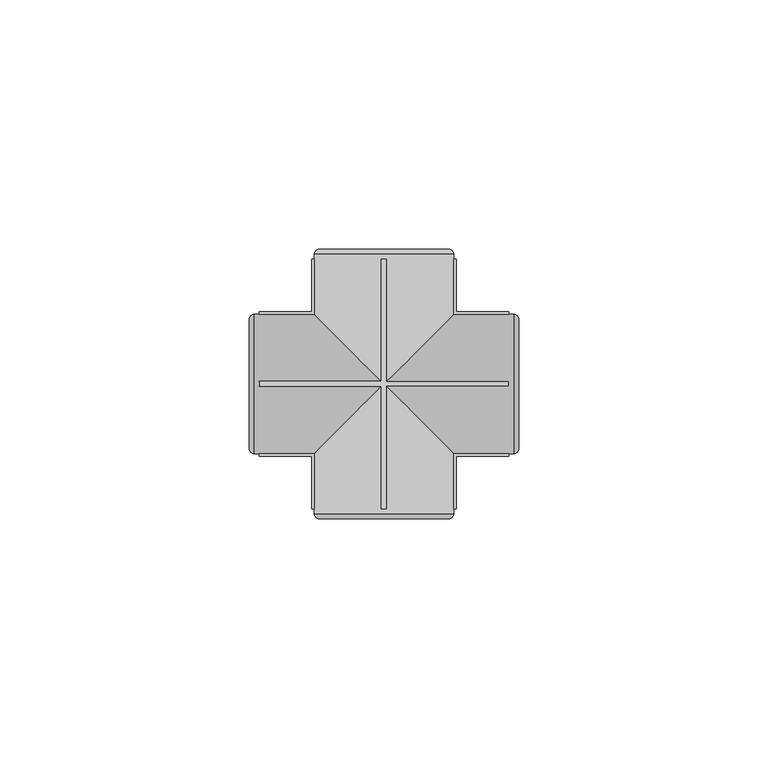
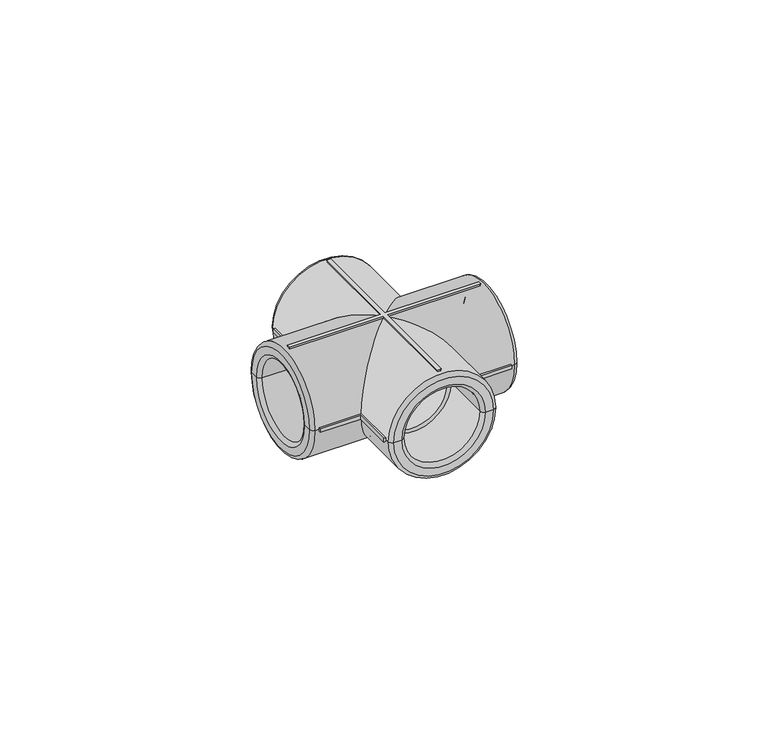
"""IFC4 building model written with IfcOpenShell, lengths in millimetres: pipe fitting geometry, EGB_VASEN_ PPR_Cruz WXR400 : EGB_VASEN_ PPR_Cruz WXR400."""

from ifc_helpers import new_model, si_unit, point, frame, origin, place, context, project, spatial, polyline, circle_curve, ellipse_curve, trimmed, source, transform, mapped, element, save
from ifc_brep_helpers import plane_surface, cylinder_surface, revolved_surface, advanced_brep


def pipe_fitting_b54301e0(model_context):
    return source(origin(), model_context, "Body", "AdvancedBrep", [
        advanced_brep(
        [(-14.5, -25.0, 0.5), (-14.5, -25.0, -0.5), (-13.9910686, -25.0, -0.5), (-14.0, -25.0, 0.0), (-13.9910686, -25.0, 0.5), (14.5, -25.0, -0.5), (14.5, -25.0, 0.5), (13.9910686, -25.0, 0.5), (14.0, -25.0, 0.0), (13.9910686, -25.0, -0.5), (14.5, 25.0, 0.5), (14.5, 25.0, -0.5), (13.9910686, 25.0, -0.5), (14.0, 25.0, 0.0), (13.9910686, 25.0, 0.5), (-14.5, 25.0, -0.5), (-14.5, 25.0, 0.5), (-13.9910686, 25.0, 0.5), (-14.0, 25.0, 0.0), (-13.9910686, 25.0, -0.5), (14.5, -14.5, -0.5), (14.5, -14.5, 0.5), (14.5, 14.5, 0.5), (14.5, 14.5, -0.5), (13.9910686, -13.9910686, -0.5), (25.0, -13.9910686, -0.5), (25.0, -14.5, -0.5), (25.0, 14.5, -0.5), (25.0, 13.9910686, -0.5), (13.9910686, 13.9910686, -0.5), (-14.5, -14.5, -0.5), (-25.0, -14.5, -0.5), (-25.0, -13.9910686, -0.5), (-13.9910686, -13.9910686, -0.5), (-14.5, 14.5, -0.5), (-13.9910686, 13.9910686, -0.5), (-25.0, 13.9910686, -0.5), (-25.0, 14.5, -0.5), (-14.5, -14.5, 0.5), (-14.5, 14.5, 0.5), (25.0, -14.5, 0.5), (25.0, -13.9910686, 0.5), (13.9910686, -13.9910686, 0.5), (13.9910686, 13.9910686, 0.5), (25.0, 13.9910686, 0.5), (25.0, 14.5, 0.5), (-13.9910686, -13.9910686, 0.5), (-25.0, -13.9910686, 0.5), (-25.0, -14.5, 0.5), (-25.0, 14.5, 0.5), (-25.0, 13.9910686, 0.5), (-13.9910686, 13.9910686, 0.5), (25.0, -14.0, 0.0), (25.0, 14.0, 0.0), (-25.0, 14.0, 0.0), (-25.0, -14.0, 0.0), (-12.9999986, 27.0, 0.0), (-11.0, 27.0, 0.0), (11.0, 27.0, 0.0), (13.0, 27.0, 0.0), (14.0, -26.0000005, 0.0), (-14.0, -26.0, 0.0), (-0.5, -0.5, -13.9910686), (-0.5, -25.0, -13.9910686), (0.5, -25.0, -13.9910686), (0.5, -0.5, -13.9910686), (-14.0, 26.0, 0.0), (14.0, 26.0, 0.0), (0.5, 0.5, -13.9910686), (0.5, 25.0, -13.9910686), (-0.5, 25.0, -13.9910686), (-0.5, 0.5, -13.9910686), (0.5, -0.5, 13.9910686), (0.5, -25.0, 13.9910686), (-0.5, -25.0, 13.9910686), (-0.5, -0.5, 13.9910686), (-0.5, 0.5, 13.9910686), (-0.5, 25.0, 13.9910686), (0.5, 25.0, 13.9910686), (0.5, 0.5, 13.9910686), (13.0, -27.0, 0.0), (11.0, -27.0, 0.0), (-11.0, -27.0, 0.0), (-13.0, -27.0, 0.0), (26.0, 14.0, 0.0), (26.0, -14.0, 0.0), (25.0, -0.5, -13.9910686), (25.0, 0.5, -13.9910686), (-25.0, 0.5, -13.9910686), (-25.0, -0.5, -13.9910686), (-26.0000015, -14.0, 0.0), (-26.0, 14.0, 0.0), (25.0, 0.5, 13.9910686), (25.0, -0.5, 13.9910686), (-25.0, -0.5, 13.9910686), (-25.0, 0.5, 13.9910686), (-27.0, -13.0, 0.0), (-27.0, -11.0, 0.0), (-27.0, 11.0, 0.0), (-27.0, 13.0, 0.0), (27.0, 12.9999999, 0.0), (27.0, 11.0, 0.0), (27.0, -11.0, 0.0), (27.0, -13.0, 0.0), (25.0, 0.5, 14.5), (25.0, -0.5, 14.5), (25.0, -0.5, -14.5), (25.0, 0.5, -14.5), (-25.0, 0.5, -14.5), (-25.0, -0.5, -14.5), (-25.0, -0.5, 14.5), (-25.0, 0.5, 14.5), (0.5, 0.5, 14.5), (0.5, 25.0, 14.5), (-0.5, 25.0, 14.5), (-0.5, 0.5, 14.5), (-0.5, -0.5, 14.5), (-0.5, -25.0, 14.5), (0.5, -25.0, 14.5), (0.5, -0.5, 14.5), (0.5, -0.5, -14.5), (-0.5, -0.5, -14.5), (0.5, -25.0, -14.5), (-0.5, -25.0, -14.5), (-0.5, 0.5, -14.5), (-0.5, 25.0, -14.5), (0.5, 25.0, -14.5), (0.5, 0.5, -14.5), (10.0, -13.0, 0.0), (9.0, -13.0, 0.0), (-9.0, -13.0, 0.0), (-10.0, -13.0, 0.0), (-10.0, -26.0, 0.0), (10.0, -26.0, 0.0), (10.0, 26.0, 0.0), (-10.0, 26.0, 0.0), (-10.0, 13.0, 0.0), (10.0, 13.0, 0.0), (-9.0, 13.0, 0.0), (9.0, 13.0, 0.0), (9.0, -9.0, 0.0), (0.0, 0.0, -9.0), (-9.0, -9.0, 0.0), (-9.0, 9.0, 0.0), (9.0, 9.0, 0.0), (0.0, 0.0, 9.0), (26.0, -10.0, 0.0), (26.0, 10.0, 0.0), (13.0, 10.0, 0.0), (13.0, -10.0, 0.0), (13.0, 9.0, 0.0), (13.0, -9.0, 0.0), (-13.0, 9.0, 0.0), (-13.0, -9.0, 0.0), (-13.0, 10.0, 0.0), (-13.0, -10.0, 0.0), (-26.0, 10.0, 0.0), (-26.0, -10.0, 0.0)],
        [
            (0, 1),
            (1, 2),
            (2, 3, circle_curve(frame((0.0, -25.0, 0.0), z_axis=(0.0, 1.0, 0.0), x_axis=(-1.0, 0.0, 0.0)), 14.0)),
            (3, 4, circle_curve(frame((0.0, -25.0, 0.0), z_axis=(0.0, 1.0, 0.0), x_axis=(-1.0, 0.0, 0.0)), 14.0)),
            (4, 0),
            (5, 6),
            (6, 7),
            (7, 8, circle_curve(frame((0.0, -25.0, 0.0), z_axis=(0.0, 1.0, 0.0), x_axis=(-1.0, 0.0, 0.0)), 14.0)),
            (8, 9, circle_curve(frame((0.0, -25.0, 0.0), z_axis=(0.0, 1.0, 0.0), x_axis=(-1.0, 0.0, 0.0)), 14.0)),
            (9, 5),
            (10, 11),
            (11, 12),
            (12, 13, circle_curve(frame((0.0, 25.0, 0.0), z_axis=(0.0, -1.0, 0.0), x_axis=(-1.0, 0.0, 0.0)), 14.0)),
            (13, 14, circle_curve(frame((0.0, 25.0, 0.0), z_axis=(0.0, -1.0, 0.0), x_axis=(-1.0, 0.0, 0.0)), 14.0)),
            (14, 10),
            (15, 16),
            (16, 17),
            (17, 18, circle_curve(frame((0.0, 25.0, 0.0), z_axis=(0.0, -1.0, 0.0), x_axis=(-1.0, 0.0, 0.0)), 14.0)),
            (18, 19, circle_curve(frame((0.0, 25.0, 0.0), z_axis=(0.0, -1.0, 0.0), x_axis=(-1.0, 0.0, 0.0)), 14.0)),
            (19, 15),
            (5, 20),
            (20, 21),
            (21, 6),
            (10, 22),
            (22, 23),
            (23, 11),
            (9, 24),
            (24, 25),
            (25, 26),
            (26, 20),
            (23, 27),
            (27, 28),
            (28, 29),
            (29, 12),
            (1, 30),
            (30, 31),
            (31, 32),
            (32, 33),
            (33, 2),
            (34, 15),
            (19, 35),
            (35, 36),
            (36, 37),
            (37, 34),
            (0, 38),
            (38, 30),
            (34, 39),
            (39, 16),
            (21, 40),
            (40, 41),
            (41, 42),
            (42, 7),
            (14, 43),
            (43, 44),
            (44, 45),
            (45, 22),
            (4, 46),
            (46, 47),
            (47, 48),
            (48, 38),
            (39, 49),
            (49, 50),
            (50, 51),
            (51, 17),
            (40, 26),
            (25, 52, circle_curve(frame((25.0, 0.0, 0.0), z_axis=(-1.0, 0.0, 0.0), x_axis=(0.0, 1.0, 0.0)), 14.0)),
            (52, 41, circle_curve(frame((25.0, 0.0, 0.0), z_axis=(-1.0, 0.0, 0.0), x_axis=(0.0, 1.0, 0.0)), 14.0)),
            (27, 45),
            (44, 53, circle_curve(frame((25.0, 0.0, 0.0), z_axis=(-1.0, 0.0, 0.0), x_axis=(0.0, 1.0, 0.0)), 14.0)),
            (53, 28, circle_curve(frame((25.0, 0.0, 0.0), z_axis=(-1.0, 0.0, 0.0), x_axis=(0.0, 1.0, 0.0)), 14.0)),
            (49, 37),
            (36, 54, circle_curve(frame((-25.0, 0.0, 0.0), z_axis=(1.0, 0.0, 0.0), x_axis=(0.0, 1.0, 0.0)), 14.0)),
            (54, 50, circle_curve(frame((-25.0, 0.0, 0.0), z_axis=(1.0, 0.0, 0.0), x_axis=(0.0, 1.0, 0.0)), 14.0)),
            (31, 48),
            (47, 55, circle_curve(frame((-25.0, 0.0, 0.0), z_axis=(1.0, 0.0, 0.0), x_axis=(0.0, 1.0, 0.0)), 14.0)),
            (55, 32, circle_curve(frame((-25.0, 0.0, 0.0), z_axis=(1.0, 0.0, 0.0), x_axis=(0.0, 1.0, 0.0)), 14.0)),
            (56, 57),
            (57, 58, circle_curve(frame((0.0, 27.0, 0.0), z_axis=(0.0, -1.0, 0.0), x_axis=(-1.0, 0.0, 0.0)), 11.0)),
            (58, 59),
            (59, 56, circle_curve(frame((0.0, 27.0, 0.0), z_axis=(0.0, 1.0, 0.0), x_axis=(-1.0, 0.0, 0.0)), 13.0)),
            (56, 59, circle_curve(frame((0.0, 27.0, 0.0), z_axis=(0.0, 1.0, 0.0), x_axis=(-1.0, 0.0, 0.0)), 13.0)),
            (58, 57, circle_curve(frame((0.0, 27.0, 0.0), z_axis=(0.0, -1.0, 0.0), x_axis=(-1.0, 0.0, 0.0)), 11.0)),
            (8, 60),
            (60, 61, circle_curve(frame((0.0, -26.0, 0.0), z_axis=(0.0, 1.0, 0.0), x_axis=(-1.0, 0.0, 0.0)), 14.0)),
            (61, 3),
            (33, 62, ellipse_curve(frame((0.0, 0.0, 0.0), z_axis=(0.7071067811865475, -0.7071067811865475, 0.0), x_axis=(-0.7071067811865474, -0.7071067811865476, 0.0)), 19.7989899, 14.0)),
            (62, 63),
            (63, 64, circle_curve(frame((0.0, -25.0, 0.0), z_axis=(0.0, -1.0, 0.0), x_axis=(-1.0, 0.0, 0.0)), 14.0)),
            (64, 65),
            (65, 24, ellipse_curve(frame((0.0, 0.0, 0.0), z_axis=(-0.7071067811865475, -0.7071067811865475, 0.0), x_axis=(0.7071067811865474, -0.7071067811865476, 0.0)), 19.7989899, 14.0)),
            (18, 66),
            (66, 67, circle_curve(frame((0.0, 26.0, 0.0), z_axis=(0.0, -1.0, 0.0), x_axis=(-1.0, 0.0, 0.0)), 14.0)),
            (67, 13),
            (29, 68, ellipse_curve(frame((0.0, 0.0, 0.0), z_axis=(-0.7071067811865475, 0.7071067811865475, 0.0), x_axis=(-0.7071067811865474, -0.7071067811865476, 0.0)), 19.7989899, 14.0)),
            (68, 69),
            (69, 70, circle_curve(frame((0.0, 25.0, 0.0), z_axis=(0.0, 1.0, 0.0), x_axis=(-1.0, 0.0, 0.0)), 14.0)),
            (70, 71),
            (71, 35, ellipse_curve(frame((0.0, 0.0, 0.0), z_axis=(0.7071067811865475, 0.7071067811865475, 0.0), x_axis=(0.7071067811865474, -0.7071067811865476, 0.0)), 19.7989899, 14.0)),
            (61, 60, circle_curve(frame((0.0, -26.0, 0.0), z_axis=(0.0, 1.0, 0.0), x_axis=(-1.0, 0.0, 0.0)), 14.0)),
            (42, 72, ellipse_curve(frame((0.0, 0.0, 0.0), z_axis=(-0.7071067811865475, -0.7071067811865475, 0.0), x_axis=(0.7071067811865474, -0.7071067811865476, 0.0)), 19.7989899, 14.0)),
            (72, 73),
            (73, 74, circle_curve(frame((0.0, -25.0, 0.0), z_axis=(0.0, -1.0, 0.0), x_axis=(-1.0, 0.0, 0.0)), 14.0)),
            (74, 75),
            (75, 46, ellipse_curve(frame((0.0, 0.0, 0.0), z_axis=(0.7071067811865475, -0.7071067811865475, 0.0), x_axis=(-0.7071067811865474, -0.7071067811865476, 0.0)), 19.7989899, 14.0)),
            (67, 66, circle_curve(frame((0.0, 26.0, 0.0), z_axis=(0.0, -1.0, 0.0), x_axis=(-1.0, 0.0, 0.0)), 14.0)),
            (51, 76, ellipse_curve(frame((0.0, 0.0, 0.0), z_axis=(0.7071067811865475, 0.7071067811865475, 0.0), x_axis=(0.7071067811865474, -0.7071067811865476, 0.0)), 19.7989899, 14.0)),
            (76, 77),
            (77, 78, circle_curve(frame((0.0, 25.0, 0.0), z_axis=(0.0, 1.0, 0.0), x_axis=(-1.0, 0.0, 0.0)), 14.0)),
            (78, 79),
            (79, 43, ellipse_curve(frame((0.0, 0.0, 0.0), z_axis=(-0.7071067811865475, 0.7071067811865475, 0.0), x_axis=(-0.7071067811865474, -0.7071067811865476, 0.0)), 19.7989899, 14.0)),
            (80, 81),
            (81, 82, circle_curve(frame((0.0, -27.0, 0.0), z_axis=(0.0, 1.0, 0.0), x_axis=(-1.0, 0.0, 0.0)), 11.0)),
            (82, 83),
            (83, 80, circle_curve(frame((0.0, -27.0, 0.0), z_axis=(0.0, -1.0, 0.0), x_axis=(-1.0, 0.0, 0.0)), 13.0)),
            (80, 83, circle_curve(frame((0.0, -27.0, 0.0), z_axis=(0.0, -1.0, 0.0), x_axis=(-1.0, 0.0, 0.0)), 13.0)),
            (82, 81, circle_curve(frame((0.0, -27.0, 0.0), z_axis=(0.0, 1.0, 0.0), x_axis=(-1.0, 0.0, 0.0)), 11.0)),
            (53, 84),
            (84, 85, circle_curve(frame((26.0, 0.0, 0.0), z_axis=(-1.0, 0.0, 0.0), x_axis=(0.0, 1.0, 0.0)), 14.0)),
            (85, 52),
            (65, 86),
            (86, 87, circle_curve(frame((25.0, 0.0, 0.0), z_axis=(1.0, 0.0, 0.0), x_axis=(0.0, 1.0, 0.0)), 14.0)),
            (87, 68),
            (71, 88),
            (88, 89, circle_curve(frame((-25.0, 0.0, 0.0), z_axis=(-1.0, 0.0, 0.0), x_axis=(0.0, 1.0, 0.0)), 14.0)),
            (89, 62),
            (55, 90),
            (90, 91, circle_curve(frame((-26.0, 0.0, 0.0), z_axis=(1.0, 0.0, 0.0), x_axis=(0.0, 1.0, 0.0)), 14.0)),
            (91, 54),
            (79, 92),
            (92, 93, circle_curve(frame((25.0, 0.0, 0.0), z_axis=(1.0, 0.0, 0.0), x_axis=(0.0, 1.0, 0.0)), 14.0)),
            (93, 72),
            (85, 84, circle_curve(frame((26.0, 0.0, 0.0), z_axis=(-1.0, 0.0, 0.0), x_axis=(0.0, 1.0, 0.0)), 14.0)),
            (91, 90, circle_curve(frame((-26.0, 0.0, 0.0), z_axis=(1.0, 0.0, 0.0), x_axis=(0.0, 1.0, 0.0)), 14.0)),
            (75, 94),
            (94, 95, circle_curve(frame((-25.0, 0.0, 0.0), z_axis=(-1.0, 0.0, 0.0), x_axis=(0.0, 1.0, 0.0)), 14.0)),
            (95, 76),
            (96, 97),
            (97, 98, circle_curve(frame((-27.0, 0.0, 0.0), z_axis=(1.0, 0.0, 0.0), x_axis=(0.0, 1.0, 0.0)), 11.0)),
            (98, 99),
            (99, 96, circle_curve(frame((-27.0, 0.0, 0.0), z_axis=(-1.0, 0.0, 0.0), x_axis=(0.0, 1.0, 0.0)), 13.0)),
            (96, 99, circle_curve(frame((-27.0, 0.0, 0.0), z_axis=(-1.0, 0.0, 0.0), x_axis=(0.0, 1.0, 0.0)), 13.0)),
            (98, 97, circle_curve(frame((-27.0, 0.0, 0.0), z_axis=(1.0, 0.0, 0.0), x_axis=(0.0, 1.0, 0.0)), 11.0)),
            (100, 101),
            (101, 102, circle_curve(frame((27.0, 0.0, 0.0), z_axis=(-1.0, 0.0, 0.0), x_axis=(0.0, 1.0, 0.0)), 11.0)),
            (102, 103),
            (103, 100, circle_curve(frame((27.0, 0.0, 0.0), z_axis=(1.0, 0.0, 0.0), x_axis=(0.0, 1.0, 0.0)), 13.0)),
            (100, 103, circle_curve(frame((27.0, 0.0, 0.0), z_axis=(1.0, 0.0, 0.0), x_axis=(0.0, 1.0, 0.0)), 13.0)),
            (102, 101, circle_curve(frame((27.0, 0.0, 0.0), z_axis=(-1.0, 0.0, 0.0), x_axis=(0.0, 1.0, 0.0)), 11.0)),
            (104, 105),
            (105, 93),
            (92, 104),
            (106, 107),
            (107, 87),
            (86, 106),
            (108, 109),
            (109, 89),
            (88, 108),
            (110, 111),
            (111, 95),
            (94, 110),
            (104, 112),
            (112, 113),
            (113, 114),
            (114, 115),
            (115, 111),
            (110, 116),
            (116, 117),
            (117, 118),
            (118, 119),
            (119, 105),
            (119, 72),
            (65, 120),
            (120, 106),
            (109, 121),
            (121, 62),
            (75, 116),
            (120, 122),
            (122, 123),
            (123, 121),
            (108, 124),
            (124, 125),
            (125, 126),
            (126, 127),
            (127, 107),
            (79, 112),
            (127, 68),
            (71, 124),
            (115, 76),
            (117, 74),
            (73, 118),
            (122, 64),
            (63, 123),
            (113, 78),
            (77, 114),
            (125, 70),
            (69, 126),
            (128, 129),
            (129, 130, circle_curve(frame((0.0, -13.0, 0.0), z_axis=(0.0, 1.0, 0.0), x_axis=(-1.0, 0.0, 0.0)), 9.0)),
            (130, 131),
            (131, 128, circle_curve(frame((0.0, -13.0, 0.0), z_axis=(0.0, -1.0, 0.0), x_axis=(-1.0, 0.0, 0.0)), 10.0)),
            (128, 131, circle_curve(frame((0.0, -13.0, 0.0), z_axis=(0.0, -1.0, 0.0), x_axis=(-1.0, 0.0, 0.0)), 10.0)),
            (130, 129, circle_curve(frame((0.0, -13.0, 0.0), z_axis=(0.0, 1.0, 0.0), x_axis=(-1.0, 0.0, 0.0)), 9.0)),
            (131, 132),
            (132, 133, circle_curve(frame((0.0, -26.0, 0.0), z_axis=(0.0, -1.0, 0.0), x_axis=(-1.0, 0.0, 0.0)), 10.0)),
            (133, 128),
            (133, 132, circle_curve(frame((0.0, -26.0, 0.0), z_axis=(0.0, -1.0, 0.0), x_axis=(-1.0, 0.0, 0.0)), 10.0)),
            (132, 82, circle_curve(frame((-11.0, -26.0, 0.0), z_axis=(0.0, 0.0, -1.0), x_axis=(1.0, 0.0, 0.0)), 1.0)),
            (81, 133, circle_curve(frame((11.0, -26.0, 0.0), z_axis=(0.0, 0.0, -1.0), x_axis=(-1.0, 0.0, 0.0)), 1.0)),
            (134, 58, circle_curve(frame((11.0, 26.0, 0.0), z_axis=(0.0, 0.0, -1.0), x_axis=(-1.0, 0.0, 0.0)), 1.0)),
            (57, 135, circle_curve(frame((-11.0, 26.0, 0.0), z_axis=(0.0, 0.0, -1.0), x_axis=(1.0, 0.0, 0.0)), 1.0)),
            (135, 134, circle_curve(frame((0.0, 26.0, 0.0), z_axis=(0.0, -1.0, 0.0), x_axis=(-1.0, 0.0, 0.0)), 10.0)),
            (134, 135, circle_curve(frame((0.0, 26.0, 0.0), z_axis=(0.0, -1.0, 0.0), x_axis=(-1.0, 0.0, 0.0)), 10.0)),
            (135, 136),
            (136, 137, circle_curve(frame((0.0, 13.0, 0.0), z_axis=(0.0, -1.0, 0.0), x_axis=(-1.0, 0.0, 0.0)), 10.0)),
            (137, 134),
            (137, 136, circle_curve(frame((0.0, 13.0, 0.0), z_axis=(0.0, -1.0, 0.0), x_axis=(-1.0, 0.0, 0.0)), 10.0)),
            (136, 138),
            (138, 139, circle_curve(frame((0.0, 13.0, 0.0), z_axis=(0.0, -1.0, 0.0), x_axis=(-1.0, 0.0, 0.0)), 9.0)),
            (139, 137),
            (139, 138, circle_curve(frame((0.0, 13.0, 0.0), z_axis=(0.0, -1.0, 0.0), x_axis=(-1.0, 0.0, 0.0)), 9.0)),
            (129, 140),
            (140, 141, ellipse_curve(frame((0.0, 0.0, 0.0), z_axis=(0.7071067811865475, 0.7071067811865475, 0.0), x_axis=(0.7071067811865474, -0.7071067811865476, 0.0)), 12.7279221, 9.0)),
            (141, 142, ellipse_curve(frame((0.0, 0.0, 0.0), z_axis=(-0.7071067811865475, 0.7071067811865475, 0.0), x_axis=(-0.7071067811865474, -0.7071067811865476, 0.0)), 12.7279221, 9.0)),
            (142, 130),
            (138, 143),
            (143, 141, ellipse_curve(frame((0.0, 0.0, 0.0), z_axis=(-0.7071067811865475, -0.7071067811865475, 0.0), x_axis=(0.7071067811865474, -0.7071067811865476, 0.0)), 12.7279221, 9.0)),
            (141, 144, ellipse_curve(frame((0.0, 0.0, 0.0), z_axis=(0.7071067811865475, -0.7071067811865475, 0.0), x_axis=(-0.7071067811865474, -0.7071067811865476, 0.0)), 12.7279221, 9.0)),
            (144, 139),
            (142, 145, ellipse_curve(frame((0.0, 0.0, 0.0), z_axis=(-0.7071067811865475, 0.7071067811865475, 0.0), x_axis=(-0.7071067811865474, -0.7071067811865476, 0.0)), 12.7279221, 9.0)),
            (145, 140, ellipse_curve(frame((0.0, 0.0, 0.0), z_axis=(0.7071067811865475, 0.7071067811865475, 0.0), x_axis=(0.7071067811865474, -0.7071067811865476, 0.0)), 12.7279221, 9.0)),
            (144, 145, ellipse_curve(frame((0.0, 0.0, 0.0), z_axis=(0.7071067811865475, -0.7071067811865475, 0.0), x_axis=(-0.7071067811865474, -0.7071067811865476, 0.0)), 12.7279221, 9.0)),
            (145, 143, ellipse_curve(frame((0.0, 0.0, 0.0), z_axis=(-0.7071067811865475, -0.7071067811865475, 0.0), x_axis=(0.7071067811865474, -0.7071067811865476, 0.0)), 12.7279221, 9.0)),
            (59, 67, circle_curve(frame((13.0, 26.0, 0.0), z_axis=(0.0, 0.0, -1.0), x_axis=(-1.0, 0.0, 0.0)), 1.0)),
            (66, 56, circle_curve(frame((-13.0, 26.0, 0.0), z_axis=(0.0, 0.0, -1.0), x_axis=(1.0, 0.0, 0.0)), 1.0)),
            (60, 80, circle_curve(frame((13.0, -26.0, 0.0), z_axis=(0.0, 0.0, -1.0), x_axis=(-1.0, 0.0, 0.0)), 1.0)),
            (83, 61, circle_curve(frame((-13.0, -26.0, 0.0), z_axis=(0.0, 0.0, -1.0), x_axis=(1.0, 0.0, 0.0)), 1.0)),
            (103, 85, circle_curve(frame((26.0, -13.0, 0.0), z_axis=(0.0, 0.0, -1.0), x_axis=(1.0, 0.0, 0.0)), 1.0)),
            (84, 100, circle_curve(frame((26.0, 13.0, 0.0), z_axis=(0.0, 0.0, -1.0), x_axis=(1.0, 0.0, 0.0)), 1.0)),
            (146, 102, circle_curve(frame((26.0, -11.0, 0.0), z_axis=(0.0, 0.0, -1.0), x_axis=(1.0, 0.0, 0.0)), 1.0)),
            (101, 147, circle_curve(frame((26.0, 11.0, 0.0), z_axis=(0.0, 0.0, -1.0), x_axis=(1.0, 0.0, 0.0)), 1.0)),
            (147, 146, circle_curve(frame((26.0, 0.0, 0.0), z_axis=(-1.0, 0.0, 0.0), x_axis=(0.0, 1.0, 0.0)), 10.0)),
            (146, 147, circle_curve(frame((26.0, 0.0, 0.0), z_axis=(-1.0, 0.0, 0.0), x_axis=(0.0, 1.0, 0.0)), 10.0)),
            (147, 148),
            (148, 149, circle_curve(frame((13.0, 0.0, 0.0), z_axis=(-1.0, 0.0, 0.0), x_axis=(0.0, 1.0, 0.0)), 10.0)),
            (149, 146),
            (149, 148, circle_curve(frame((13.0, 0.0, 0.0), z_axis=(-1.0, 0.0, 0.0), x_axis=(0.0, 1.0, 0.0)), 10.0)),
            (148, 150),
            (150, 151, circle_curve(frame((13.0, 0.0, 0.0), z_axis=(-1.0, 0.0, 0.0), x_axis=(0.0, 1.0, 0.0)), 9.0)),
            (151, 149),
            (151, 150, circle_curve(frame((13.0, 0.0, 0.0), z_axis=(-1.0, 0.0, 0.0), x_axis=(0.0, 1.0, 0.0)), 9.0)),
            (150, 144),
            (140, 151),
            (152, 153, circle_curve(frame((-13.0, 0.0, 0.0), z_axis=(-1.0, 0.0, 0.0), x_axis=(0.0, 1.0, 0.0)), 9.0)),
            (153, 142),
            (143, 152),
            (153, 152, circle_curve(frame((-13.0, 0.0, 0.0), z_axis=(-1.0, 0.0, 0.0), x_axis=(0.0, 1.0, 0.0)), 9.0)),
            (152, 154),
            (154, 155, circle_curve(frame((-13.0, 0.0, 0.0), z_axis=(-1.0, 0.0, 0.0), x_axis=(0.0, 1.0, 0.0)), 10.0)),
            (155, 153),
            (155, 154, circle_curve(frame((-13.0, 0.0, 0.0), z_axis=(-1.0, 0.0, 0.0), x_axis=(0.0, 1.0, 0.0)), 10.0)),
            (154, 156),
            (156, 157, circle_curve(frame((-26.0, 0.0, 0.0), z_axis=(-1.0, 0.0, 0.0), x_axis=(0.0, 1.0, 0.0)), 10.0)),
            (157, 155),
            (157, 156, circle_curve(frame((-26.0, 0.0, 0.0), z_axis=(-1.0, 0.0, 0.0), x_axis=(0.0, 1.0, 0.0)), 10.0)),
            (156, 98, circle_curve(frame((-26.0, 11.0, 0.0), z_axis=(0.0, 0.0, -1.0), x_axis=(1.0, 0.0, 0.0)), 1.0)),
            (97, 157, circle_curve(frame((-26.0, -11.0, 0.0), z_axis=(0.0, 0.0, -1.0), x_axis=(1.0, 0.0, 0.0)), 1.0)),
            (90, 96, circle_curve(frame((-26.0, -13.0, 0.0), z_axis=(0.0, 0.0, -1.0), x_axis=(1.0, 0.0, 0.0)), 1.0)),
            (99, 91, circle_curve(frame((-26.0, 13.0, 0.0), z_axis=(0.0, 0.0, -1.0), x_axis=(1.0, 0.0, 0.0)), 1.0)),
        ],
        [
            plane_surface(frame((14.5, -25.0, 0.5), z_axis=(0.0, -1.0, 0.0), x_axis=(0.0, 0.0, 1.0))),
            plane_surface(frame((14.5, 25.0, 0.5), z_axis=(0.0, 1.0, 0.0), x_axis=(0.0, 0.0, -1.0))),
            plane_surface(frame((14.5, 25.0, 0.5), z_axis=(1.0, 0.0, 0.0), x_axis=(0.0, -1.0, 0.0))),
            plane_surface(frame((14.5, 25.0, -0.5), z_axis=(0.0, 0.0, -1.0), x_axis=(0.0, -1.0, 0.0))),
            plane_surface(frame((-14.5, 25.0, -0.5), z_axis=(-1.0, 0.0, 0.0), x_axis=(0.0, -1.0, 0.0))),
            plane_surface(frame((-14.5, 25.0, 0.5), z_axis=(0.0, 0.0, 1.0), x_axis=(0.0, -1.0, 0.0))),
            plane_surface(frame((25.0, -14.5, 0.5), z_axis=(1.0, 0.0, 0.0), x_axis=(0.0, -1.0, 0.0))),
            plane_surface(frame((-25.0, -14.5, 0.5), z_axis=(-1.0, 0.0, 0.0), x_axis=(0.0, 1.0, 0.0))),
            plane_surface(frame((25.0, -14.5, 0.5), z_axis=(0.0, -1.0, 0.0), x_axis=(-1.0, 0.0, 0.0))),
            plane_surface(frame((25.0, 14.5, -0.5), z_axis=(0.0, 1.0, 0.0), x_axis=(-1.0, 0.0, 0.0))),
            plane_surface(frame((0.0, 27.0, 0.0), z_axis=(0.0, 1.0, 0.0), x_axis=(-1.0, 0.0, 0.0))),
            cylinder_surface(frame((0.0, 2000.0, 0.0), z_axis=(0.0, -1.0, 0.0), x_axis=(-1.0, 0.0, 0.0)), 14.0),
            plane_surface(frame((0.0, -27.0, 0.0), z_axis=(0.0, -1.0, 0.0), x_axis=(-1.0, 0.0, 0.0))),
            cylinder_surface(frame((2000.0, 0.0, 0.0), z_axis=(-1.0, 0.0, 0.0), x_axis=(0.0, 1.0, 0.0)), 14.0),
            plane_surface(frame((-27.0, 0.0, 0.0), z_axis=(-1.0, 0.0, 0.0), x_axis=(0.0, 1.0, 0.0))),
            plane_surface(frame((27.0, 0.0, 0.0), z_axis=(1.0, 0.0, 0.0), x_axis=(0.0, 1.0, 0.0))),
            plane_surface(frame((25.0, -0.5, 14.5), z_axis=(1.0, 0.0, 0.0), x_axis=(0.0, -1.0, 0.0))),
            plane_surface(frame((-25.0, -0.5, 14.5), z_axis=(-1.0, 0.0, 0.0), x_axis=(0.0, 1.0, 0.0))),
            plane_surface(frame((25.0, 0.5, 14.5), z_axis=(0.0, 0.0, 1.0), x_axis=(-1.0, 0.0, 0.0))),
            plane_surface(frame((25.0, -0.5, 14.5), z_axis=(0.0, -1.0, 0.0), x_axis=(-1.0, 0.0, 0.0))),
            plane_surface(frame((25.0, -0.5, -14.5), z_axis=(0.0, 0.0, -1.0), x_axis=(-1.0, 0.0, 0.0))),
            plane_surface(frame((25.0, 0.5, -14.5), z_axis=(0.0, 1.0, 0.0), x_axis=(-1.0, 0.0, 0.0))),
            plane_surface(frame((0.5, -25.0, 14.5), z_axis=(0.0, -1.0, 0.0), x_axis=(0.0, 0.0, 1.0))),
            plane_surface(frame((0.5, 25.0, 14.5), z_axis=(0.0, 1.0, 0.0), x_axis=(0.0, 0.0, -1.0))),
            plane_surface(frame((0.5, 25.0, 14.5), z_axis=(1.0, 0.0, 0.0), x_axis=(0.0, -1.0, 0.0))),
            plane_surface(frame((-0.5, 25.0, -14.5), z_axis=(-1.0, 0.0, 0.0), x_axis=(0.0, -1.0, 0.0))),
            plane_surface(frame((0.0, -13.0, 0.0), z_axis=(0.0, -1.0, 0.0), x_axis=(-1.0, 0.0, 0.0))),
            revolved_surface(polyline([(-10.0, -26.0, 0.0), (-10.0, -13.0, 0.0)]), (0.0, 2000.0, 0.0), (0.0, -1.0, 0.0)),
            revolved_surface(trimmed(ellipse_curve(frame((-11.0, -26.0, 0.0), z_axis=(0.0, 0.0, 1.0), x_axis=(1.0, 0.0, 0.0)), 1.0, 1.0), [point((-11.0, -27.0, 0.0))], [point((-10.0, -26.0, 0.0))], True, "CARTESIAN"), (0.0, 2000.0, 0.0), (0.0, -1.0, 0.0)),
            revolved_surface(trimmed(ellipse_curve(frame((-11.0, 26.0, 0.0), z_axis=(0.0, 0.0, 1.0), x_axis=(1.0, 0.0, 0.0)), 1.0, 1.0), [point((-10.0, 26.0, 0.0))], [point((-11.0, 27.0, 0.0))], True, "CARTESIAN"), (0.0, 2000.0, 0.0), (0.0, -1.0, 0.0)),
            revolved_surface(polyline([(-10.0, 13.0, 0.0), (-10.0, 26.0, 0.0)]), (0.0, 2000.0, 0.0), (0.0, -1.0, 0.0)),
            plane_surface(frame((0.0, 13.0, 0.0), z_axis=(0.0, 1.0, 0.0), x_axis=(-1.0, 0.0, 0.0))),
            revolved_surface(polyline([(-9.0, -13.0, 0.0), (-9.0, 9.000000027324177, 0.0)]), (0.0, 2000.0, 0.0), (0.0, -1.0, 0.0)),
            revolved_surface(polyline([(-9.0, -9.000000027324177, 0.0), (-9.0, 13.0, 0.0)]), (0.0, 2000.0, 0.0), (0.0, -1.0, 0.0)),
            revolved_surface(trimmed(ellipse_curve(frame((-13.0, 26.0, 0.0), z_axis=(0.0, 0.0, 1.0), x_axis=(1.0, 0.0, 0.0)), 1.0, 1.0), [point((-13.0, 27.0, 0.0))], [point((-14.0, 26.0, 0.0))], True, "CARTESIAN"), (0.0, 2000.0, 0.0), (0.0, -1.0, 0.0)),
            revolved_surface(trimmed(ellipse_curve(frame((-13.0, -26.0, 0.0), z_axis=(0.0, 0.0, 1.0), x_axis=(1.0, 0.0, 0.0)), 1.0, 1.0), [point((-14.0, -26.0, 0.0))], [point((-13.0, -27.0, 0.0))], True, "CARTESIAN"), (0.0, 2000.0, 0.0), (0.0, -1.0, 0.0)),
            revolved_surface(trimmed(ellipse_curve(frame((26.0, 13.0, 0.0), z_axis=(0.0, 0.0, 1.0), x_axis=(1.0, 0.0, 0.0)), 1.0, 1.0), [point((27.0, 13.0, 0.0))], [point((26.0, 14.0, 0.0))], True, "CARTESIAN"), (2000.0, 0.0, 0.0), (-1.0, 0.0, 0.0)),
            revolved_surface(trimmed(ellipse_curve(frame((26.0, 11.0, 0.0), z_axis=(0.0, 0.0, 1.0), x_axis=(1.0, 0.0, 0.0)), 1.0, 1.0), [point((26.0, 10.0, 0.0))], [point((27.0, 11.0, 0.0))], True, "CARTESIAN"), (2000.0, 0.0, 0.0), (-1.0, 0.0, 0.0)),
            revolved_surface(polyline([(13.0, 10.0, 0.0), (26.0, 10.0, 0.0)]), (2000.0, 0.0, 0.0), (-1.0, 0.0, 0.0)),
            plane_surface(frame((13.0, 0.0, 0.0), z_axis=(1.0, 0.0, 0.0), x_axis=(0.0, 1.0, 0.0))),
            revolved_surface(polyline([(-9.000000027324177, 9.0, 0.0), (13.0, 9.0, 0.0)]), (2000.0, 0.0, 0.0), (-1.0, 0.0, 0.0)),
            revolved_surface(polyline([(-13.0, 9.0, 0.0), (9.000000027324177, 9.0, 0.0)]), (2000.0, 0.0, 0.0), (-1.0, 0.0, 0.0)),
            plane_surface(frame((-13.0, 0.0, 0.0), z_axis=(-1.0, 0.0, 0.0), x_axis=(0.0, 1.0, 0.0))),
            revolved_surface(polyline([(-26.0, 10.0, 0.0), (-13.0, 10.0, 0.0)]), (2000.0, 0.0, 0.0), (-1.0, 0.0, 0.0)),
            revolved_surface(trimmed(ellipse_curve(frame((-26.0, 11.0, 0.0), z_axis=(0.0, 0.0, 1.0), x_axis=(1.0, 0.0, 0.0)), 1.0, 1.0), [point((-27.0, 11.0, 0.0))], [point((-26.0, 10.0, 0.0))], True, "CARTESIAN"), (2000.0, 0.0, 0.0), (-1.0, 0.0, 0.0)),
            revolved_surface(trimmed(ellipse_curve(frame((-26.0, 13.0, 0.0), z_axis=(0.0, 0.0, 1.0), x_axis=(1.0, 0.0, 0.0)), 1.0, 1.0), [point((-26.0, 14.0, 0.0))], [point((-27.0, 13.0, 0.0))], True, "CARTESIAN"), (2000.0, 0.0, 0.0), (-1.0, 0.0, 0.0)),
        ],
        [
            (0, [[1, 2, 3, 4, 5]]),
            (0, [[6, 7, 8, 9, 10]]),
            (1, [[11, 12, 13, 14, 15]]),
            (1, [[16, 17, 18, 19, 20]]),
            (2, [[-6, 21, 22, 23]]),
            (2, [[-11, 24, 25, 26]]),
            (3, [[-21, -10, 27, 28, 29, 30]]),
            (3, [[-26, 31, 32, 33, 34, -12]]),
            (3, [[35, 36, 37, 38, 39, -2]]),
            (3, [[40, -20, 41, 42, 43, 44]]),
            (4, [[-1, 45, 46, -35]]),
            (4, [[-16, -40, 47, 48]]),
            (5, [[-23, 49, 50, 51, 52, -7]]),
            (5, [[-24, -15, 53, 54, 55, 56]]),
            (5, [[-45, -5, 57, 58, 59, 60]]),
            (5, [[-48, 61, 62, 63, 64, -17]]),
            (6, [[65, -29, 66, 67, -50]]),
            (6, [[68, -55, 69, 70, -32]]),
            (7, [[71, -43, 72, 73, -62]]),
            (7, [[74, -59, 75, 76, -37]]),
            (8, [[-65, -49, -22, -30]]),
            (8, [[-74, -36, -46, -60]]),
            (9, [[-68, -31, -25, -56]]),
            (9, [[-71, -61, -47, -44]]),
            (10, [[77, 78, 79, 80]]),
            (10, [[-77, 81, -79, 82]]),
            (11, [[-9, 83, 84, 85, -3, -39, 86, 87, 88, 89, 90, -27]]),
            (11, [[-19, 91, 92, 93, -13, -34, 94, 95, 96, 97, 98, -41]]),
            (11, [[-4, -85, 99, -83, -8, -52, 100, 101, 102, 103, 104, -57]]),
            (11, [[-14, -93, 105, -91, -18, -64, 106, 107, 108, 109, 110, -53]]),
            (12, [[111, 112, 113, 114]]),
            (12, [[-111, 115, -113, 116]]),
            (13, [[-33, -70, 117, 118, 119, -66, -28, -90, 120, 121, 122, -94]]),
            (13, [[-42, -98, 123, 124, 125, -86, -38, -76, 126, 127, 128, -72]]),
            (13, [[-54, -110, 129, 130, 131, -100, -51, -67, -119, 132, -117, -69]]),
            (13, [[-63, -73, -128, 133, -126, -75, -58, -104, 134, 135, 136, -106]]),
            (14, [[137, 138, 139, 140]]),
            (14, [[-137, 141, -139, 142]]),
            (15, [[143, 144, 145, 146]]),
            (15, [[-143, 147, -145, 148]]),
            (16, [[149, 150, -130, 151]]),
            (16, [[152, 153, -121, 154]]),
            (17, [[155, 156, -124, 157]]),
            (17, [[158, 159, -135, 160]]),
            (18, [[-149, 161, 162, 163, 164, 165, -158, 166, 167, 168, 169, 170]]),
            (19, [[-150, -170, 171, -131]]),
            (19, [[-154, -120, 172, 173]]),
            (19, [[-156, 174, 175, -125]]),
            (19, [[-160, -134, 176, -166]]),
            (20, [[-152, -173, 177, 178, 179, -174, -155, 180, 181, 182, 183, 184]]),
            (21, [[-151, -129, 185, -161]]),
            (21, [[-153, -184, 186, -122]]),
            (21, [[-157, -123, 187, -180]]),
            (21, [[-159, -165, 188, -136]]),
            (22, [[-168, 189, -102, 190]]),
            (22, [[-178, 191, -88, 192]]),
            (23, [[-163, 193, -108, 194]]),
            (23, [[-182, 195, -96, 196]]),
            (24, [[-162, -185, -109, -193]]),
            (24, [[-169, -190, -101, -171]]),
            (24, [[-177, -172, -89, -191]]),
            (24, [[-183, -196, -95, -186]]),
            (25, [[-164, -194, -107, -188]]),
            (25, [[-167, -176, -103, -189]]),
            (25, [[-179, -192, -87, -175]]),
            (25, [[-181, -187, -97, -195]]),
            (26, [[197, 198, 199, 200]]),
            (26, [[-197, 201, -199, 202]]),
            (27, [[-200, 203, 204, 205]]),
            (27, [[-201, -205, 206, -203]]),
            (28, [[-204, 207, -112, 208]]),
            (28, [[-206, -208, -116, -207]]),
            (29, [[209, -78, 210, 211]]),
            (29, [[-209, 212, -210, -82]]),
            (30, [[-211, 213, 214, 215]]),
            (30, [[-212, -215, 216, -213]]),
            (31, [[-214, 217, 218, 219]]),
            (31, [[-216, -219, 220, -217]]),
            (32, [[-198, 221, 222, 223, 224]]),
            (33, [[-218, 225, 226, 227, 228]]),
            (32, [[-202, -224, 229, 230, -221]]),
            (33, [[-220, -228, 231, 232, -225]]),
            (34, [[233, -92, 234, -80]]),
            (34, [[-233, -81, -234, -105]]),
            (35, [[235, -114, 236, -84]]),
            (35, [[-235, -99, -236, -115]]),
            (36, [[237, -118, 238, -146]]),
            (36, [[-237, -147, -238, -132]]),
            (37, [[239, -144, 240, 241]]),
            (37, [[-239, 242, -240, -148]]),
            (38, [[-241, 243, 244, 245]]),
            (38, [[-242, -245, 246, -243]]),
            (39, [[-244, 247, 248, 249]]),
            (39, [[-246, -249, 250, -247]]),
            (40, [[-248, 251, -227, -222, 252]]),
            (41, [[253, 254, -223, -226, 255]]),
            (40, [[-250, -252, -230, -231, -251]]),
            (41, [[256, -255, -232, -229, -254]]),
            (42, [[-253, 257, 258, 259]]),
            (42, [[-256, -259, 260, -257]]),
            (43, [[-258, 261, 262, 263]]),
            (43, [[-260, -263, 264, -261]]),
            (44, [[-262, 265, -138, 266]]),
            (44, [[-264, -266, -142, -265]]),
            (45, [[267, -140, 268, -127]]),
            (45, [[-267, -133, -268, -141]]),
        ],
    ),
    ])


if __name__ == "__main__":
    model = new_model("IFC4")
    model_context = context("Model", 3, world=origin())
    ifc_project = project(units=[si_unit("LENGTHUNIT", "METRE", prefix="MILLI")], contexts=[model_context])
    site = spatial("IfcSite", under=ifc_project)
    building = spatial("IfcBuilding", under=site)
    placement = place(None, origin())
    pipe_fitting_shape = pipe_fitting_b54301e0(model_context)
    element("IfcPipeFitting", 1, ObjectType="EGB_VASEN_ PPR_Cruz WXR400 : EGB_VASEN_ PPR_Cruz WXR400", at=placement, inside=building, context=model_context, shape_type="MappedRepresentation", body=[
        mapped(pipe_fitting_shape, transform((0.0, 0.0, 0.0), x_axis=(1.0, 0.0, 0.0), y_axis=(0.0, 1.0, 0.0), z_axis=(0.0, 0.0, 1.0))),
    ])
    save(model, "model.ifc")
